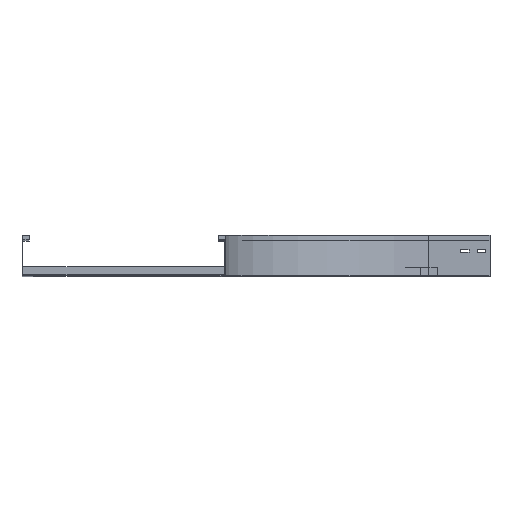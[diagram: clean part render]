
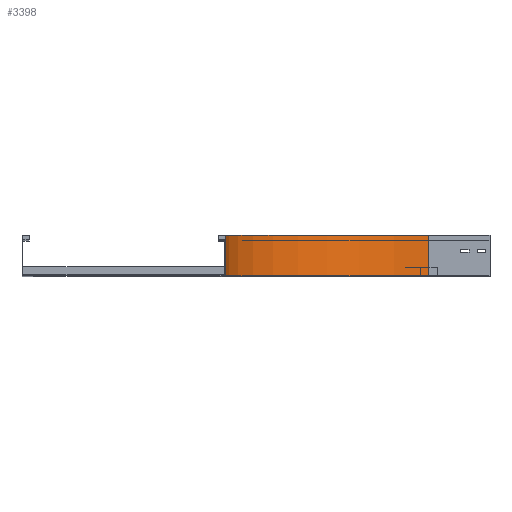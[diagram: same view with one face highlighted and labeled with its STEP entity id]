
A CAD part, top view. The second image highlights one B-rep face of the part: STEP entity #3398.
In plain terms, the highlighted cylindrical face has radius 500 mm (diameter 1000 mm), a partial arc.
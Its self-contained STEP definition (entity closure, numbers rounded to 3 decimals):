
#29 = CARTESIAN_POINT ( 'NONE',  ( 500., 0., -150. ) ) ;
#33 = ORIENTED_EDGE ( 'NONE', *, *, #382, .F. ) ;
#46 = DIRECTION ( 'NONE',  ( -1., 0., 0. ) ) ;
#117 = CIRCLE ( 'NONE', #1427, 500. ) ;
#260 = FACE_OUTER_BOUND ( 'NONE', #4254, .T. ) ;
#382 = EDGE_CURVE ( 'NONE', #4248, #1300, #1390, .T. ) ;
#559 = LINE ( 'NONE', #1864, #1190 ) ;
#616 = VERTEX_POINT ( 'NONE', #2938 ) ;
#811 = CIRCLE ( 'NONE', #2739, 500. ) ;
#1190 = VECTOR ( 'NONE', #1906, 1000. ) ;
#1300 = VERTEX_POINT ( 'NONE', #4084 ) ;
#1390 = LINE ( 'NONE', #3334, #4040 ) ;
#1427 = AXIS2_PLACEMENT_3D ( 'NONE', #1553, #4169, #3879 ) ;
#1461 = ORIENTED_EDGE ( 'NONE', *, *, #2569, .F. ) ;
#1553 = CARTESIAN_POINT ( 'NONE',  ( 500., 0., -150. ) ) ;
#1587 = DIRECTION ( 'NONE',  ( 0., 0., -1. ) ) ;
#1768 = VERTEX_POINT ( 'NONE', #2756 ) ;
#1864 = CARTESIAN_POINT ( 'NONE',  ( 500., 0., -650. ) ) ;
#1906 = DIRECTION ( 'NONE',  ( 0., 1., 0. ) ) ;
#1992 = DIRECTION ( 'NONE',  ( 0., -1., 0. ) ) ;
#2153 = AXIS2_PLACEMENT_3D ( 'NONE', #29, #1992, #1587 ) ;
#2569 = EDGE_CURVE ( 'NONE', #1300, #1768, #811, .T. ) ;
#2601 = CYLINDRICAL_SURFACE ( 'NONE', #2153, 500. ) ;
#2739 = AXIS2_PLACEMENT_3D ( 'NONE', #2952, #3350, #46 ) ;
#2756 = CARTESIAN_POINT ( 'NONE',  ( 500., 100., -650. ) ) ;
#2906 = EDGE_CURVE ( 'NONE', #4248, #616, #117, .T. ) ;
#2938 = CARTESIAN_POINT ( 'NONE',  ( 500., 0., -650. ) ) ;
#2952 = CARTESIAN_POINT ( 'NONE',  ( 500., 100., -150. ) ) ;
#3069 = ORIENTED_EDGE ( 'NONE', *, *, #2906, .T. ) ;
#3303 = CARTESIAN_POINT ( 'NONE',  ( 0., 0., -150. ) ) ;
#3334 = CARTESIAN_POINT ( 'NONE',  ( 0., 0., -150. ) ) ;
#3350 = DIRECTION ( 'NONE',  ( 0., -1., 0. ) ) ;
#3398 = ADVANCED_FACE ( 'NONE', ( #260 ), #2601, .F. ) ;
#3879 = DIRECTION ( 'NONE',  ( -1., 0., 0. ) ) ;
#3986 = DIRECTION ( 'NONE',  ( 0., 1., 0. ) ) ;
#3990 = ORIENTED_EDGE ( 'NONE', *, *, #4093, .T. ) ;
#4040 = VECTOR ( 'NONE', #3986, 1000. ) ;
#4084 = CARTESIAN_POINT ( 'NONE',  ( 0., 100., -150. ) ) ;
#4093 = EDGE_CURVE ( 'NONE', #616, #1768, #559, .T. ) ;
#4169 = DIRECTION ( 'NONE',  ( 0., -1., 0. ) ) ;
#4248 = VERTEX_POINT ( 'NONE', #3303 ) ;
#4254 = EDGE_LOOP ( 'NONE', ( #1461, #33, #3069, #3990 ) ) ;
